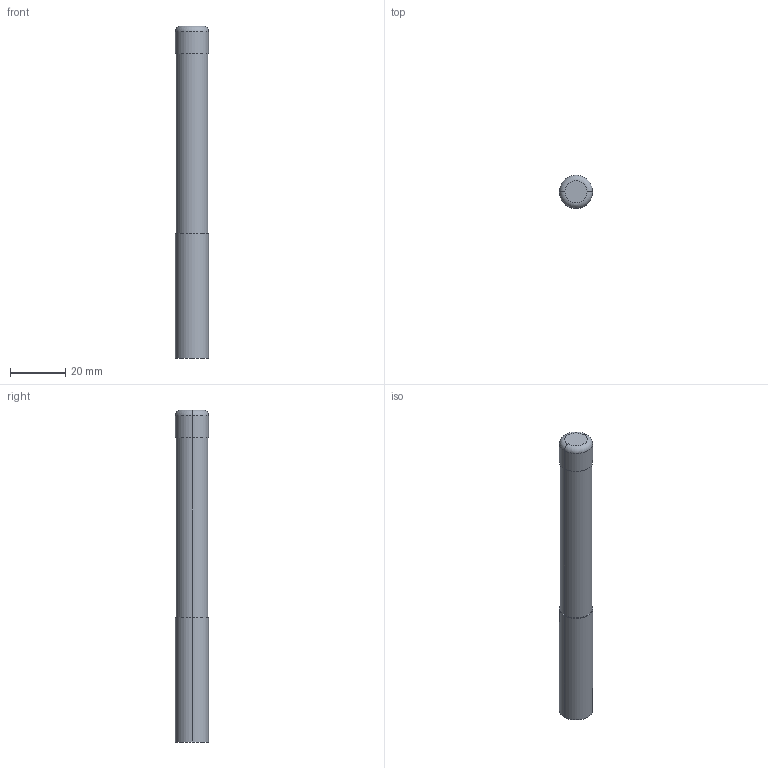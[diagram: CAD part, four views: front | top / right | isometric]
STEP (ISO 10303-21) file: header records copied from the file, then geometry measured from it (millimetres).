
FILE_DESCRIPTION(('STEP AP214'),'1');
FILE_NAME('cctmp_16E0E5BD-2802-4CF4-A7A0-468699D68A49_2020_09_30_15_38_25_0133..stp','2020-09-30T13:38:25',('Meusburger Georg GmbH & Co KG'),('CADClick - www.CADClick.com'),'Spatial InterOp 3D',' ','unknown authorization');
FILE_SCHEMA(('AUTOMOTIVE_DESIGN { 1 0 10303 214 1 1 1 1 }'));
Length unit declared in the file: millimetre
Products named in the file (1): WZF 11522_12
Bounding box: 12 x 12 x 120 mm (x, y, z)
Volume: 12941.9 mm3; surface area: 4632.3 mm2
Topology: 1 solids, 1 shells, 12 faces, 22 edges, 14 vertices
Faces by surface type: cylinder 6, plane 4, torus 2
Entity records: 426 total; most frequent: DIRECTION 64, CARTESIAN_POINT 49, ORIENTED_EDGE 44, AXIS2_PLACEMENT_3D 29, EDGE_CURVE 22, CIRCLE 16, EDGE_LOOP 14, VERTEX_POINT 14
